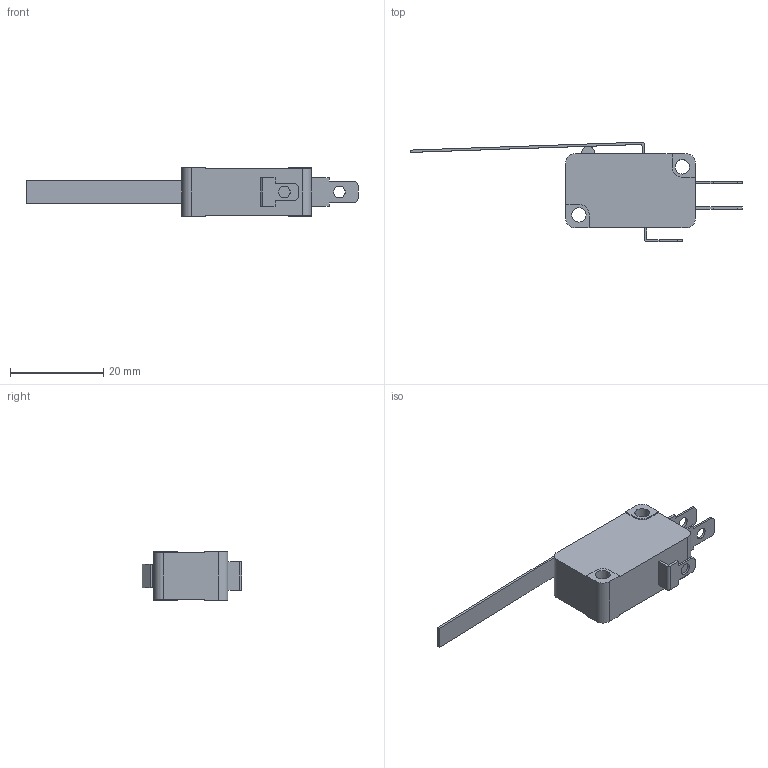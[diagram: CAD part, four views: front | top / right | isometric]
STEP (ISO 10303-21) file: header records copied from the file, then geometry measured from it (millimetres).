
FILE_DESCRIPTION(/* description */ (''),/* implementation_level */ '2;1');
FILE_NAME(/* name */ 'E:\Inventor 2016\제품 외형도\(완료) 리미트 스위치\소형 마이크로 스위치 (V형)\YS L3-15C.stp',/* time_stamp */ '2019-04-09T10:04:14+09:00',/* author */ ('Kim'),/* organization */ (''),/* preprocessor_version */ 'ST-DEVELOPER v16.1',/* originating_system */ 'Autodesk Inventor 2016',/* authorisation */ '');
FILE_SCHEMA (('AUTOMOTIVE_DESIGN { 1 0 10303 214 3 1 1 }'));
Length unit declared in the file: millimetre
Products named in the file (1): YS L3-15C
Bounding box: 71.2 x 21.4 x 10.5 mm (x, y, z)
Volume: 4448.4 mm3; surface area: 3012.4 mm2
Topology: 2 solids, 2 shells, 92 faces, 246 edges, 164 vertices
Faces by surface type: plane 69, cylinder 23
Full cylindrical faces by diameter (mm): 2.5 x3, 3.1 x2
Entity records: 2942 total; most frequent: CARTESIAN_POINT 498, ORIENTED_EDGE 482, DIRECTION 473, EDGE_CURVE 241, LINE 195, VECTOR 195, VERTEX_POINT 164, AXIS2_PLACEMENT_3D 139
